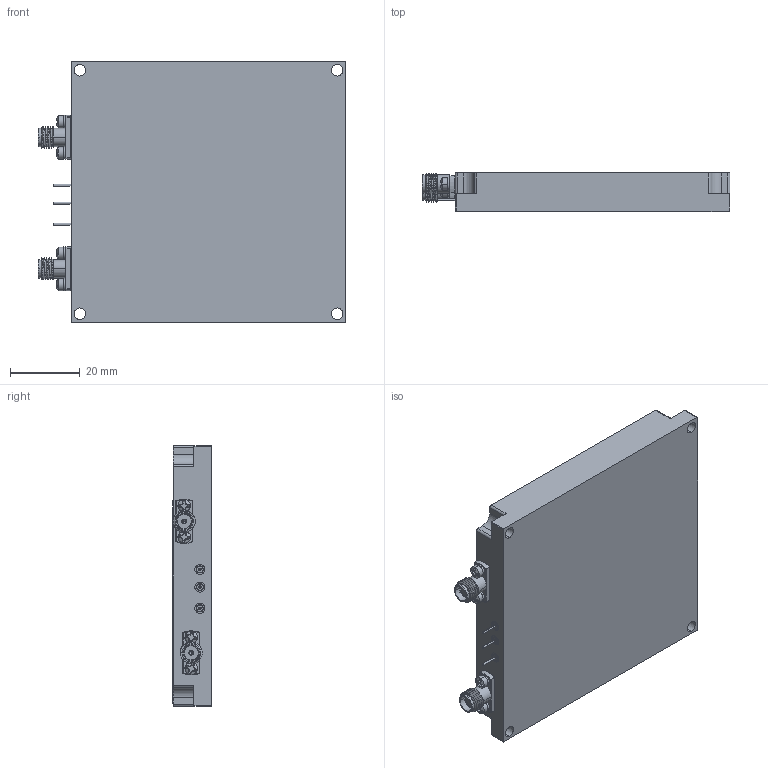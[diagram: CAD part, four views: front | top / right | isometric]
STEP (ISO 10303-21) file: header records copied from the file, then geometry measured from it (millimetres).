
FILE_DESCRIPTION (( 'STEP AP214' ), '1' );
FILE_NAME ('SDLVA-2G18G-50MV-100-NRF-2.STEP', '2025-08-05T19:48:06', ( '' ), ( '' ), 'SwSTEP 2.0', 'SolidWorks 2024', '' );
FILE_SCHEMA (( 'AUTOMOTIVE_DESIGN' ));
Length unit declared in the file: inch
Products named in the file (1): SDLVA-2G18G-50MV-100-NRF-2
Bounding box: 88.53 x 11.13 x 75 mm (x, y, z)
Volume: 65464.8 mm3; surface area: 26849.6 mm2
Topology: 178 solids, 178 shells, 2710 faces, 6771 edges, 4428 vertices
Faces by surface type: plane 1605, bspline 678, cylinder 226, torus 136, cone 38, sphere 27
Entity records: 145890 total; most frequent: CARTESIAN_POINT 48333, ORIENTED_EDGE 13472, DIRECTION 10198, EDGE_CURVE 6736, VECTOR 4460, LINE 4460, VERTEX_POINT 4422, AXIS2_PLACEMENT_3D 2869
